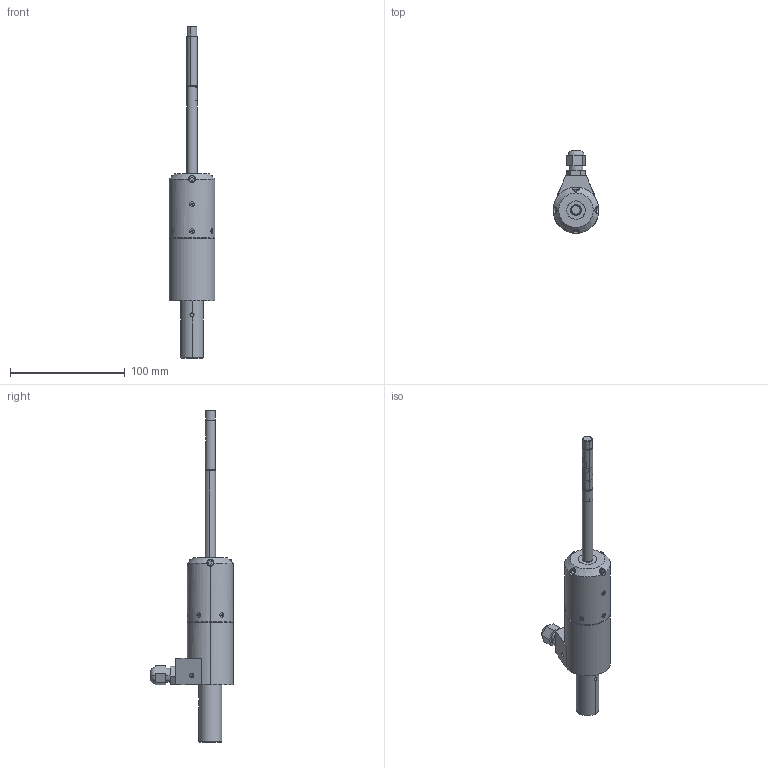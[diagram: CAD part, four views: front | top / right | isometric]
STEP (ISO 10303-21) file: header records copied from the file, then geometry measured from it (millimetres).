
FILE_DESCRIPTION (( 'STEP AP203' ), '1' );
FILE_NAME ('俶 609.05Rt.000_捘.STEP', '2020-03-24T07:05:18', ( 'user' ), ( 'Ref' ), 'SwSTEP 2.0', 'SolidWorks 2015', '' );
FILE_SCHEMA (( 'CONFIG_CONTROL_DESIGN' ));
Length unit declared in the file: millimetre
Products named in the file (15): 俶 609.05Rt.000_捘; 妈眚_󉞆_鲨腠漯; 嵑殧趌2; Øàéáà ïðóæèííàÿ_2; ÐÔ 609.05.00_Îñíîâàíèå ýëåêòðî  Rt; 妈眚_󉞄_鲨腠漯; 俶 607.11.00_櫻謷飶罻; 俶 609.05.00騶扻豵鵨; Âèíò_Ì3õ8; ﾐﾔ 609.05.00ﾊ鮻; ÐÔ 607.11.00_Äåðæàâêà Êàáåëÿ; 俶 609.05.00騶盷謥羻僾鴀 Rt; Âèíò_Ì2õ4; ÐÔ 609.05Rt_èçìåðèòåëüíûé ìîäóëü.; 佤瞁鍱
Assembly tree (23 placements, depth 3):
  俶 609.05Rt.000_捘
    ÐÔ 609.05.00_Îñíîâàíèå ýëåêòðî  Rt
    俶 607.11.00_櫻謷飶罻
    Âèíò_Ì3õ8  x4
    ÐÔ 607.11.00_Äåðæàâêà Êàáåëÿ
    Âèíò_Ì2õ4  x7
    佤瞁鍱
    妈眚_󉞆_鲨腠漯
    嵑殧趌2
    Øàéáà ïðóæèííàÿ_2
    妈眚_󉞄_鲨腠漯
    ÐÔ 609.05Rt_èçìåðèòåëüíûé ìîäóëü.
      俶 609.05.00騶扻豵鵨
      ﾐﾔ 609.05.00ﾊ鮻
      俶 609.05.00騶盷謥羻僾鴀 Rt
Bounding box: 40 x 71.97 x 289 mm (x, y, z)
Volume: 74907.4 mm3; surface area: 50606.1 mm2
Topology: 26 solids, 26 shells, 685 faces, 1685 edges, 1071 vertices
Faces by surface type: plane 297, cylinder 240, cone 132, torus 16
Entity records: 17653 total; most frequent: CARTESIAN_POINT 4540, DIRECTION 2408, ORIENTED_EDGE 2332, EDGE_CURVE 1166, AXIS2_PLACEMENT_3D 940, VERTEX_POINT 738, EDGE_LOOP 542, LINE 528
